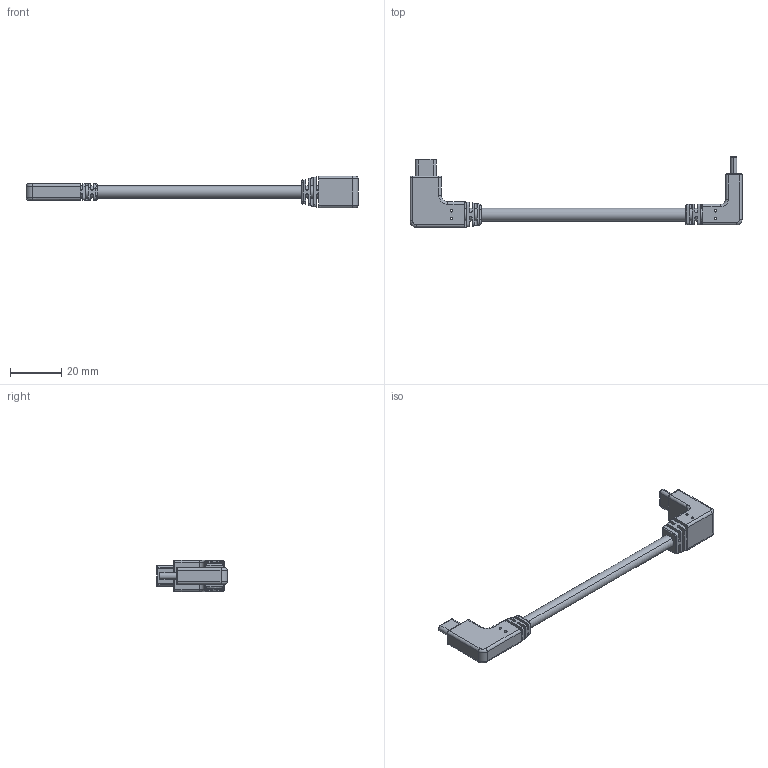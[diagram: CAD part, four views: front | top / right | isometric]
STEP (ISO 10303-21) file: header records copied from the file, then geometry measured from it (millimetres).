
FILE_DESCRIPTION (( 'STEP AP203' ), '1' );
FILE_NAME ('RR-CHCV-XXGGRNTP_202302.STEP', '2023-02-17T05:29:52', ( '' ), ( '' ), 'SwSTEP 2.0', 'SolidWorks 2019', '' );
FILE_SCHEMA (( 'CONFIG_CONTROL_DESIGN' ));
Length unit declared in the file: millimetre
Products named in the file (1): RR-CHCV-XXGGRNTP_202302
Bounding box: 129.65 x 27.65 x 12.25 mm (x, y, z)
Volume: 6844.2 mm3; surface area: 4965.4 mm2
Topology: 1 solids, 1 shells, 218 faces, 574 edges, 364 vertices
Faces by surface type: cylinder 105, plane 64, torus 21, bspline 20, cone 8
Entity records: 9073 total; most frequent: CARTESIAN_POINT 3854, ORIENTED_EDGE 1148, DIRECTION 989, EDGE_CURVE 574, AXIS2_PLACEMENT_3D 384, VERTEX_POINT 364, EDGE_LOOP 232, LINE 221
